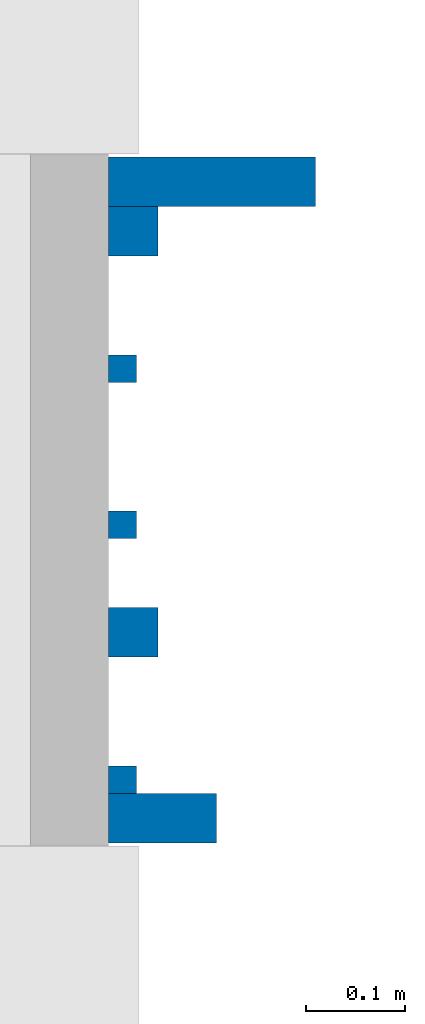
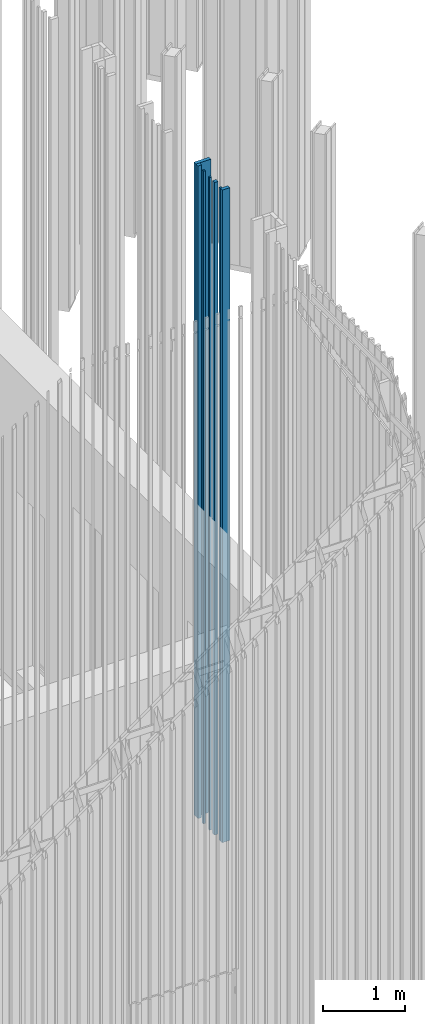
# One storey, part 177 of 390: 7 walls.
"""IFC2X3 building model written with IfcOpenShell, lengths in millimetres."""

from ifc_helpers import new_model, entity, si_unit, converted_unit, derived_unit, money_unit, direction, frame, origin_with_axes, place, context, subcontext, project, spatial, faceted_brep, material, type_object, element, save


model = new_model("IFC2X3")

# Units and contexts
model_context = context("Model", 3, precision=1e-05, world=origin_with_axes(), true_north=direction((0.0, 1.0)))
body_context = subcontext(model_context, "Body", "Model", "MODEL_VIEW")
ifc_project = project(units=[si_unit("LENGTHUNIT", "METRE", prefix="MILLI"), si_unit("AREAUNIT", "SQUARE_METRE"), si_unit("VOLUMEUNIT", "CUBIC_METRE"), converted_unit("PLANEANGLEUNIT", "DEGREE", entity("IfcPlaneAngleMeasure", 0.0174532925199), si_unit("PLANEANGLEUNIT", "RADIAN"), dimensions=[0, 0, 0, 0, 0, 0, 0]), si_unit("SOLIDANGLEUNIT", "STERADIAN"), money_unit("EUR"), converted_unit("TIMEUNIT", "Year", entity("IfcTimeMeasure", 31556926.0), si_unit("TIMEUNIT", "SECOND"), dimensions=[0, 0, 1, 0, 0, 0, 0]), si_unit("MASSUNIT", "GRAM", prefix="KILO"), si_unit("THERMODYNAMICTEMPERATUREUNIT", "DEGREE_CELSIUS"), si_unit("LUMINOUSINTENSITYUNIT", "LUMEN"), si_unit("ENERGYUNIT", "JOULE", prefix="MEGA"), derived_unit("THERMALCONDUCTANCEUNIT", [(si_unit("POWERUNIT", "WATT"), 1), (si_unit("LENGTHUNIT", "METRE"), -1), (si_unit("THERMODYNAMICTEMPERATUREUNIT", "KELVIN"), -1)]), derived_unit("SPECIFICHEATCAPACITYUNIT", [(si_unit("ENERGYUNIT", "JOULE"), 1), (si_unit("MASSUNIT", "GRAM", prefix="KILO"), -1), (si_unit("THERMODYNAMICTEMPERATUREUNIT", "KELVIN"), -1)]), derived_unit("MASSDENSITYUNIT", [(si_unit("MASSUNIT", "GRAM", prefix="KILO"), 1), (si_unit("VOLUMEUNIT", "CUBIC_METRE"), -1)])], contexts=[model_context])

# Site, building, storey
site_placement = place(None, origin_with_axes())
site = spatial("IfcSite", under=ifc_project, at=site_placement, Name="Site", CompositionType="ELEMENT")
building_placement = place(site_placement, origin_with_axes())
building = spatial("IfcBuilding", under=site, at=building_placement, Name="Building", CompositionType="ELEMENT")
storey_placement = place(building_placement, origin_with_axes())
storey = spatial("IfcBuildingStorey", under=building, at=storey_placement, Name="1 korrus", CompositionType="ELEMENT", Elevation=0.0)

# Walls
ifc_material = material(Name="Site specified")
wall_type = type_object("IfcWallType", Name="Puitfassaadi ribistik", PredefinedType="NOTDEFINED")
wall_1_placement = place(storey_placement, frame((139891.499999, 48171.8244708, 100.000000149), z_axis=(0.0, 0.0, 1.0), x_axis=(0.0, -1.0, 0.0)))
element("IfcWall", 1, at=wall_1_placement, inside=storey, type_object=wall_type, material=ifc_material, Name="Site specified", context=body_context, shape_type="Brep", body=[
    faceted_brep([(-25.0, -104.5, 9764.99999985), (-25.0, -104.5, 0.0), (25.0, -104.5, 0.0), (25.0, -104.5, 9764.99999985), (-25.0, 104.5, 9764.99999985), (-25.0, 104.5, 0.0), (25.0, 104.5, 0.0), (25.0, 104.5, 9764.99999985)], [[[0, 1, 2, 3]], [[4, 5, 1, 0]], [[2, 1, 5, 6]], [[3, 2, 6, 7]], [[4, 0, 3, 7]], [[7, 6, 5, 4]]]),
])
wall_2_placement = place(storey_placement, frame((139800.999999, 47982.8244708, 100.000000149), z_axis=(0.0, 0.0, 1.0), x_axis=(0.0, -1.0, 0.0)))
element("IfcWall", 2, at=wall_2_placement, inside=storey, type_object=wall_type, material=ifc_material, Name="Site specified", context=body_context, shape_type="Brep", body=[
    faceted_brep([(-14.0, -14.0, 9764.99999985), (-14.0, -14.0, 0.0), (14.0, -14.0, 0.0), (14.0, -14.0, 9764.99999985), (-14.0, 14.0, 9764.99999985), (-14.0, 14.0, 0.0), (14.0, 14.0, 0.0), (14.0, 14.0, 9764.99999985)], [[[0, 1, 2, 3]], [[4, 5, 1, 0]], [[2, 1, 5, 6]], [[3, 2, 6, 7]], [[4, 0, 3, 7]], [[7, 6, 5, 4]]]),
])
wall_3_placement = place(storey_placement, frame((139841.499999, 47527.8244708, 100.000000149), z_axis=(0.0, 0.0, 1.0), x_axis=(0.0, -1.0, 0.0)))
element("IfcWall", 3, at=wall_3_placement, inside=storey, type_object=wall_type, material=ifc_material, Name="Site specified", context=body_context, shape_type="Brep", body=[
    faceted_brep([(-25.0, -54.5, 9764.99999985), (-25.0, -54.5, 0.0), (25.0, -54.5, 0.0), (25.0, -54.5, 9764.99999985), (-25.0, 54.5, 9764.99999985), (-25.0, 54.5, 0.0), (25.0, 54.5, 0.0), (25.0, 54.5, 9764.99999985)], [[[0, 1, 2, 3]], [[4, 5, 1, 0]], [[2, 1, 5, 6]], [[3, 2, 6, 7]], [[4, 0, 3, 7]], [[7, 6, 5, 4]]]),
])
for number, where, z_axis, x_axis, name in (
    (4, (139800.999999, 47824.8244708, 100.000000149), (0.0, 0.0, 1.0), (0.0, -1.0, 0.0), "Site specified"),
    (5, (139800.999999, 47566.8244708, 100.000000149), (0.0, 0.0, 1.0), (0.0, -1.0, 0.0), "Site specified"),
):
    element("IfcWall", number, at=place(storey_placement, frame(where, z_axis=z_axis, x_axis=x_axis)), inside=storey, type_object=wall_type, material=ifc_material, Name=name, context=body_context, shape_type="Brep", body=[
        faceted_brep([(-14.0, -14.0, 9764.99999985), (-14.0, -14.0, 0.0), (14.0, -14.0, 0.0), (14.0, -14.0, 9764.99999985), (-14.0, 14.0, 9764.99999985), (-14.0, 14.0, 0.0), (14.0, 14.0, 0.0), (14.0, 14.0, 9764.99999985)], [[[0, 1, 2, 3]], [[4, 5, 1, 0]], [[2, 1, 5, 6]], [[3, 2, 6, 7]], [[4, 0, 3, 7]], [[7, 6, 5, 4]]]),
    ])
for number, where, z_axis, x_axis, name in (
    (6, (139811.999999, 48121.8244708, 100.000000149), (0.0, 0.0, 1.0), (0.0, -1.0, 0.0), "Site specified"),
    (7, (139811.999999, 47715.8244708, 100.000000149), (0.0, 0.0, 1.0), (0.0, -1.0, 0.0), "Site specified"),
):
    element("IfcWall", number, at=place(storey_placement, frame(where, z_axis=z_axis, x_axis=x_axis)), inside=storey, type_object=wall_type, material=ifc_material, Name=name, context=body_context, shape_type="Brep", body=[
        faceted_brep([(-25.0, -25.0, 9764.99999985), (-25.0, -25.0, 0.0), (25.0, -25.0, 0.0), (25.0, -25.0, 9764.99999985), (-25.0, 25.0, 9764.99999985), (-25.0, 25.0, 0.0), (25.0, 25.0, 0.0), (25.0, 25.0, 9764.99999985)], [[[0, 1, 2, 3]], [[4, 5, 1, 0]], [[2, 1, 5, 6]], [[3, 2, 6, 7]], [[4, 0, 3, 7]], [[7, 6, 5, 4]]]),
    ])

save(model, "model.ifc")
